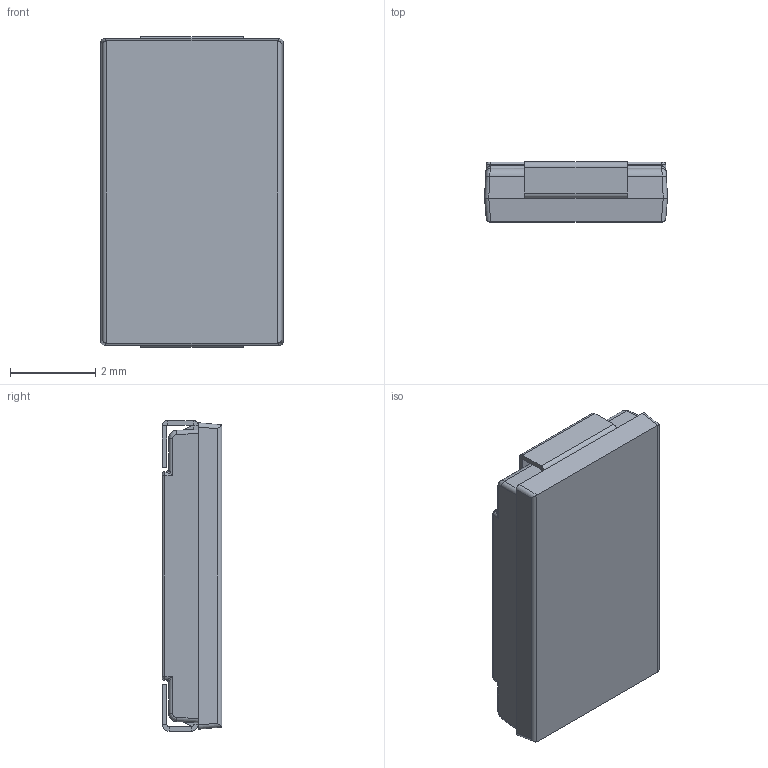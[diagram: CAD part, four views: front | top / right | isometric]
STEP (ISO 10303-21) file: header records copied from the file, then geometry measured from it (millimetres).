
FILE_DESCRIPTION (( 'STEP AP214' ), '1' );
FILE_NAME ('D15E.STEP', '2019-08-06T02:36:59', ( '全社標準PC（ver1803）' ), ( 'パナソニック株式会社' ), 'SwSTEP 2.0', 'SolidWorks 2019', '' );
FILE_SCHEMA (( 'AUTOMOTIVE_DESIGN' ));
Length unit declared in the file: millimetre
Products named in the file (1): D15E
Bounding box: 4.3 x 1.4 x 7.3 mm (x, y, z)
Volume: 41.3 mm3; surface area: 108.2 mm2
Topology: 3 solids, 3 shells, 110 faces, 252 edges, 144 vertices
Faces by surface type: plane 60, cylinder 34, bspline 16
Entity records: 4382 total; most frequent: CARTESIAN_POINT 871, ORIENTED_EDGE 496, DIRECTION 430, EDGE_CURVE 248, LINE 160, VECTOR 160, VERTEX_POINT 144, AXIS2_PLACEMENT_3D 135
